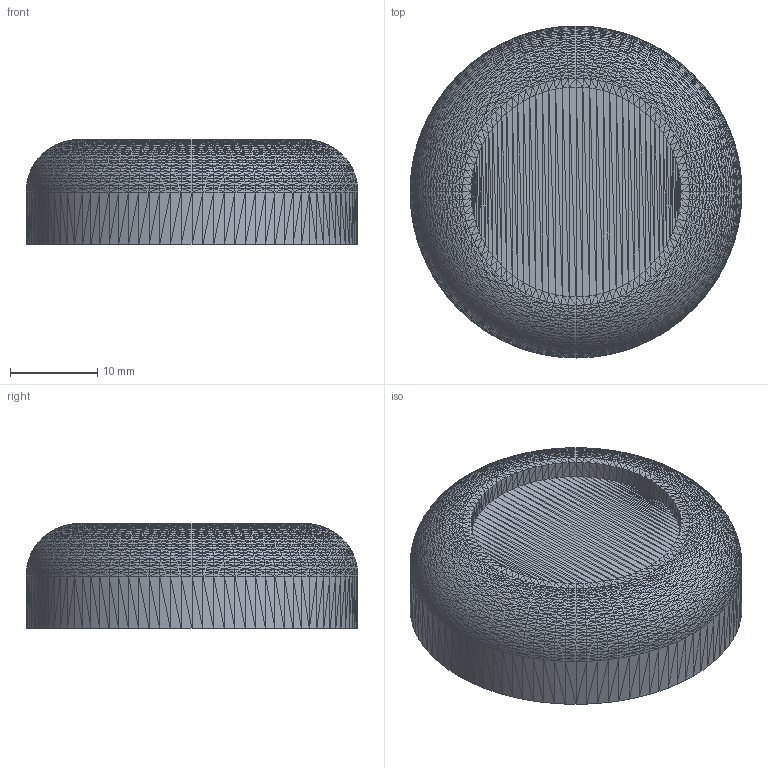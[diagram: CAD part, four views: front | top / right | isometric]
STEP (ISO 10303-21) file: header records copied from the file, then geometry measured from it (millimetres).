
FILE_DESCRIPTION(('BEAREE ear - faceted solid, tessellated from the OpenSCAD model'),'2;1');
FILE_NAME('ear.step','2026-08-05T18:55:26',('BEAREE'),(''),'tools/step_gen.js','OpenSCAD 2021.01','');
FILE_SCHEMA(('AUTOMOTIVE_DESIGN { 1 0 10303 214 1 1 1 1 }'));
Products named in the file (1): ear
Bounding box: 38 x 38 x 12 mm (x, y, z)
Volume: 11612.8 mm3; surface area: 3685.6 mm2
Topology: 1 solids, 1 shells, 6524 faces, 9786 edges, 3264 vertices
Faces by surface type: plane 6524
Entity records: 110930 total; most frequent: DIRECTION 22836, ORIENTED_EDGE 19572, VECTOR 9786, LINE 9786, EDGE_CURVE 9786, AXIS2_PLACEMENT_3D 6525, EDGE_LOOP 6524, FACE_OUTER_BOUND 6524
